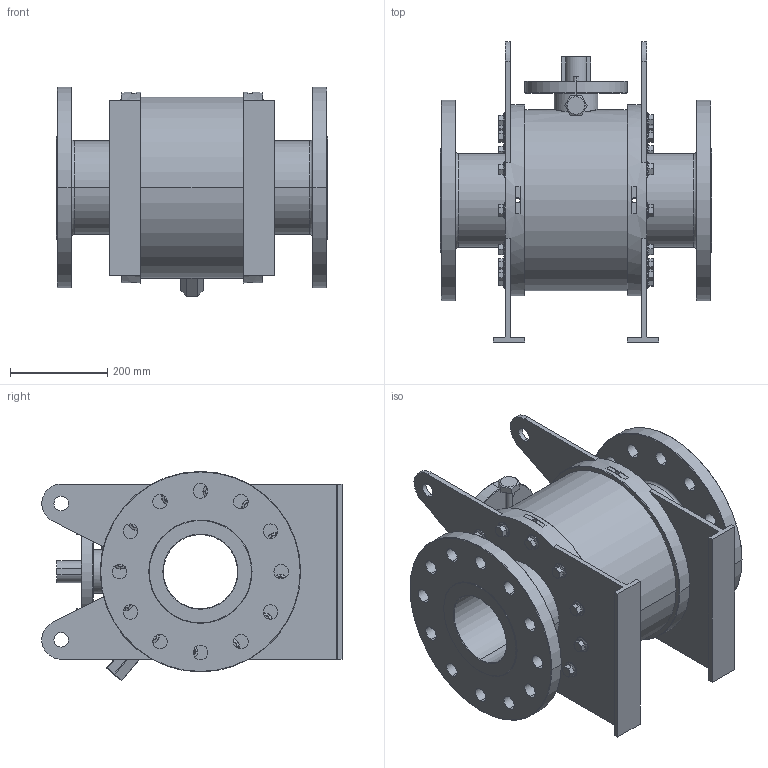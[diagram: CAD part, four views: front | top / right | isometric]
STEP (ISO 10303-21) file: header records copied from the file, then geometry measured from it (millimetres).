
FILE_DESCRIPTION (( 'STEP AP203' ), '1' );
FILE_NAME ('GB2_ANSI_600_6IN_TW.STEP', '2025-10-09T13:00:23', ( '' ), ( '' ), 'SwSTEP 2.0', 'SolidWorks 2025', '' );
FILE_SCHEMA (( 'CONFIG_CONTROL_DESIGN' ));
Length unit declared in the file: millimetre
Products named in the file (3): GB2_ANSI_600_6IN_TW; hex flange screw_am_B18.2.3.4M - Hex flange screw, M16 x 2.0 x 25 --25N; GB2_ANSI_2500_1500_ANSI_600_6IN
Assembly tree (25 placements, depth 2):
  GB2_ANSI_600_6IN_TW
    GB2_ANSI_2500_1500_ANSI_600_6IN
    hex flange screw_am_B18.2.3.4M - Hex flange screw, M16 x 2.0 x 25 --25N  x24
Bounding box: 559 x 617.62 x 430.23 mm (x, y, z)
Volume: 39433469.4 mm3; surface area: 2158076.3 mm2
Topology: 25 solids, 25 shells, 1033 faces, 2302 edges, 1376 vertices
Faces by surface type: plane 325, cone 270, cylinder 222, bspline 156, torus 54, sphere 6
Entity records: 13417 total; most frequent: CARTESIAN_POINT 3648, DIRECTION 1966, ORIENTED_EDGE 1744, EDGE_CURVE 872, AXIS2_PLACEMENT_3D 796, VERTEX_POINT 546, EDGE_LOOP 476, CIRCLE 420
